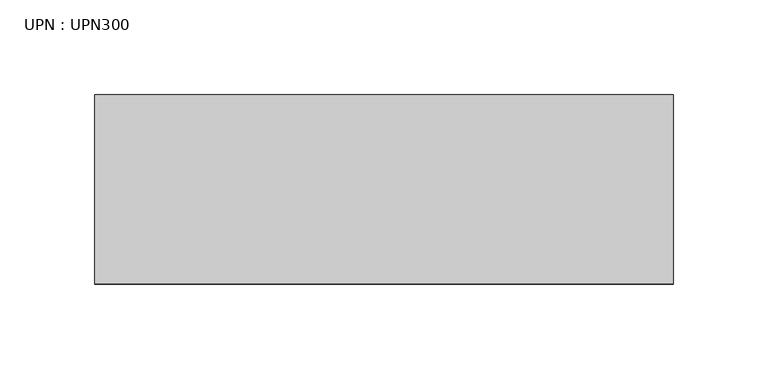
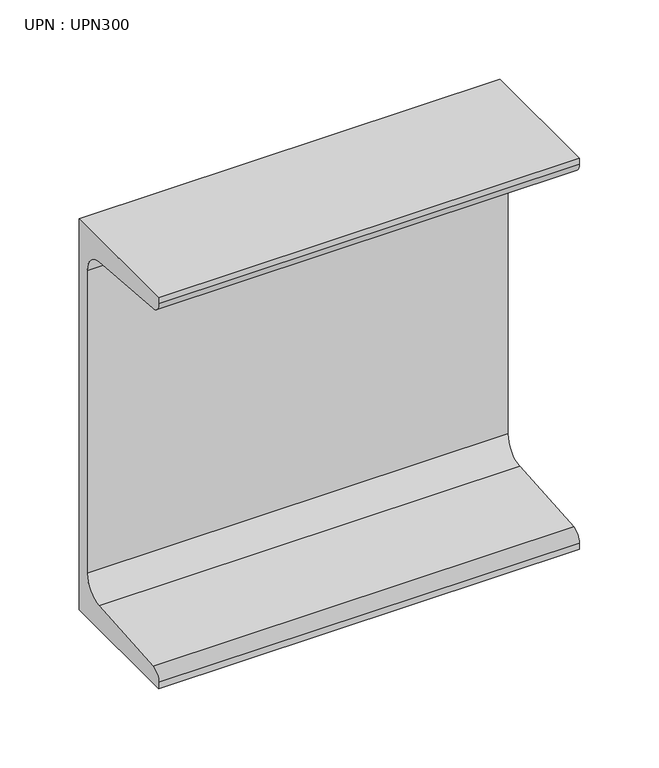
"""IFC4 building model written with IfcOpenShell, lengths in millimetres: beam geometry, UPN : UPN300."""

from ifc_helpers import new_model, si_unit, point, frame, frame_2d, origin, place, context, project, spatial, polyline, circle_curve, trimmed, segment, composite_curve, outline, extrude, source, transform, mapped, element, save


def upn_upn300_0192a80f(model_context):
    return source(origin(), model_context, "Body", "SweptSolid", [
        extrude(outline(composite_curve([segment(polyline([(27.0, 150.0), (27.0, -150.0), (-73.0, -150.0), (-73.0, -145.3826224)]), True, "CONTINUOUS"), segment(trimmed(circle_curve(frame_2d((-65.0, -145.3826224)), 8.0), [point((-73.0, -145.3826224))], [point((-65.637416, -137.4080566))], False, "CARTESIAN"), True, "CONTINUOUS"), segment(polyline([(-65.637416, -137.4080566), (2.274832, -131.9797543)]), True, "CONTINUOUS"), segment(trimmed(circle_curve(frame_2d((1.0, -116.0306225)), 16.0), [point((2.274832, -131.9797543))], [point((17.0, -116.0306225))], True, "CARTESIAN"), True, "CONTINUOUS"), segment(polyline([(17.0, -116.0306225), (17.0, 116.0306225)]), True, "CONTINUOUS"), segment(trimmed(circle_curve(frame_2d((1.0, 116.0306225)), 16.0), [point((17.0, 116.0306225))], [point((2.274832, 131.9797543))], True, "CARTESIAN"), True, "CONTINUOUS"), segment(polyline([(2.274832, 131.9797543), (-65.637416, 137.4080566)]), True, "CONTINUOUS"), segment(trimmed(circle_curve(frame_2d((-65.0, 145.3826224)), 8.0), [point((-65.637416, 137.4080566))], [point((-73.0, 145.3826224))], False, "CARTESIAN"), True, "CONTINUOUS"), segment(polyline([(-73.0, 145.3826224), (-73.0, 150.0), (27.0, 150.0)]), True, "CONTINUOUS")], self_intersect=False)), frame((-145.4, 0.0, 0.0), z_axis=(1.0, 0.0, 0.0), x_axis=(0.0, 1.0, 0.0)), (0.0, 0.0, 1.0), 305.7),
    ])


if __name__ == "__main__":
    model = new_model("IFC4")
    model_context = context("Model", 3, world=origin())
    ifc_project = project(units=[si_unit("LENGTHUNIT", "METRE", prefix="MILLI")], contexts=[model_context])
    site = spatial("IfcSite", under=ifc_project)
    building = spatial("IfcBuilding", under=site)
    placement = place(None, origin())
    upn_upn300_shape = upn_upn300_0192a80f(model_context)
    element("IfcBeam", 1, ObjectType="UPN : UPN300", at=placement, inside=building, context=model_context, shape_type="MappedRepresentation", body=[
        mapped(upn_upn300_shape, transform((0.0, 0.0, 0.0), x_axis=(1.0, 0.0, 0.0), y_axis=(0.0, 1.0, 0.0), z_axis=(0.0, 0.0, 1.0))),
    ])
    save(model, "model.ifc")
